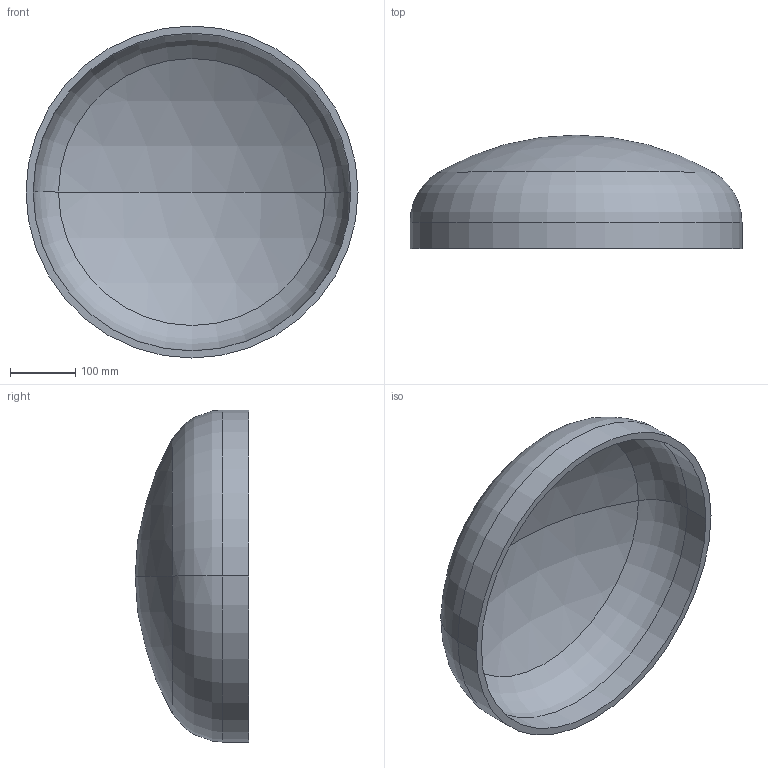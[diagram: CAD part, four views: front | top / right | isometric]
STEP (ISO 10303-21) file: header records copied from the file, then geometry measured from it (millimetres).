
FILE_DESCRIPTION (( 'STEP AP203' ), '1' );
FILE_NAME ('DIN 28013 Korbbogenform_-_Boden DIN 28013 - 508 x 40 - I - s=11.step', '2016-07-01T07:52:20', ( '' ), ( '' ), 'SwSTEP 2.0', 'SolidWorks 2013', '' );
FILE_SCHEMA (( 'CONFIG_CONTROL_DESIGN' ));
Length unit declared in the file: millimetre
Products named in the file (1): DIN 28013 Korbbogenform_-_Boden DIN 28013 - 508 x 40 - I - s=11
Bounding box: 508 x 173.52 x 508 mm (x, y, z)
Volume: 3686637.1 mm3; surface area: 687726 mm2
Topology: 1 solids, 1 shells, 13 faces, 24 edges, 14 vertices
Faces by surface type: torus 4, cylinder 4, sphere 4, plane 1
Entity records: 407 total; most frequent: DIRECTION 72, CARTESIAN_POINT 52, ORIENTED_EDGE 48, AXIS2_PLACEMENT_3D 34, EDGE_CURVE 24, CIRCLE 20, VERTEX_POINT 14, EDGE_LOOP 14
